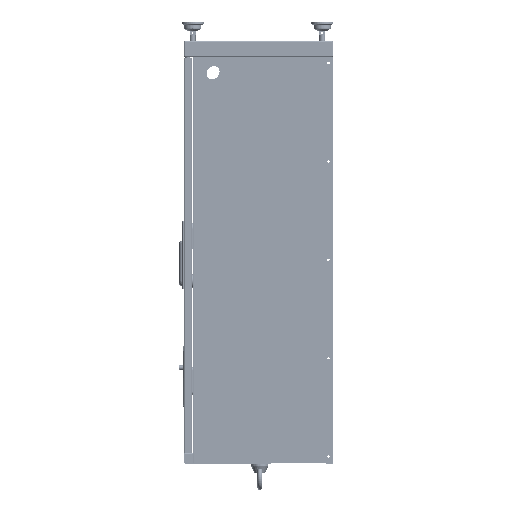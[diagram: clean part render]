
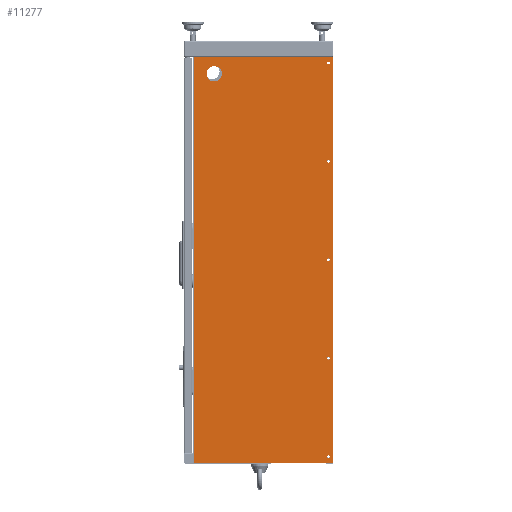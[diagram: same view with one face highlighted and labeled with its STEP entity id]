
A CAD part, left-side view. The second image highlights one B-rep face of the part: STEP entity #11277.
In plain terms, the highlighted planar face has unit normal (-1, 0, 0).
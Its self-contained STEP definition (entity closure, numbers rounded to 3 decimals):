
#10538=DIRECTION('',(0.,0.,-1.));
#10539=VECTOR('',#10538,845.);
#10540=CARTESIAN_POINT('',(-261.5,0.5,388.85));
#10541=LINE('',#10540,#10539);
#10545=DIRECTION('',(0.,1.,0.));
#10546=VECTOR('',#10545,290.);
#10547=CARTESIAN_POINT('',(-261.5,0.5,-456.15));
#10548=LINE('',#10547,#10546);
#10552=DIRECTION('',(0.,-1.,0.));
#10553=VECTOR('',#10552,290.);
#10554=CARTESIAN_POINT('',(-261.5,290.5,388.85));
#10555=LINE('',#10554,#10553);
#10559=CARTESIAN_POINT('',(-261.5,9.5,-443.65));
#10560=DIRECTION('',(-1.,0.,0.));
#10561=DIRECTION('',(0.,-1.,0.));
#10562=AXIS2_PLACEMENT_3D('',#10559,#10560,#10561);
#10567=CARTESIAN_POINT('',(-261.5,9.5,-443.65));
#10568=DIRECTION('',(-1.,0.,0.));
#10569=DIRECTION('',(0.,1.,0.));
#10570=AXIS2_PLACEMENT_3D('',#10567,#10568,#10569);
#10575=CARTESIAN_POINT('',(-261.5,9.5,-238.65));
#10576=DIRECTION('',(-1.,0.,0.));
#10577=DIRECTION('',(0.,-1.,0.));
#10578=AXIS2_PLACEMENT_3D('',#10575,#10576,#10577);
#10583=CARTESIAN_POINT('',(-261.5,9.5,-238.65));
#10584=DIRECTION('',(-1.,0.,0.));
#10585=DIRECTION('',(0.,1.,0.));
#10586=AXIS2_PLACEMENT_3D('',#10583,#10584,#10585);
#10591=CARTESIAN_POINT('',(-261.5,9.5,-33.65));
#10592=DIRECTION('',(-1.,0.,0.));
#10593=DIRECTION('',(0.,-1.,0.));
#10594=AXIS2_PLACEMENT_3D('',#10591,#10592,#10593);
#10599=CARTESIAN_POINT('',(-261.5,9.5,-33.65));
#10600=DIRECTION('',(-1.,0.,0.));
#10601=DIRECTION('',(0.,1.,0.));
#10602=AXIS2_PLACEMENT_3D('',#10599,#10600,#10601);
#10607=CARTESIAN_POINT('',(-261.5,9.5,376.35));
#10608=DIRECTION('',(-1.,0.,0.));
#10609=DIRECTION('',(0.,-1.,0.));
#10610=AXIS2_PLACEMENT_3D('',#10607,#10608,#10609);
#10615=CARTESIAN_POINT('',(-261.5,9.5,376.35));
#10616=DIRECTION('',(-1.,0.,0.));
#10617=DIRECTION('',(0.,1.,0.));
#10618=AXIS2_PLACEMENT_3D('',#10615,#10616,#10617);
#10623=CARTESIAN_POINT('',(-261.5,9.5,171.35));
#10624=DIRECTION('',(-1.,0.,0.));
#10625=DIRECTION('',(0.,-1.,0.));
#10626=AXIS2_PLACEMENT_3D('',#10623,#10624,#10625);
#10631=CARTESIAN_POINT('',(-261.5,9.5,171.35));
#10632=DIRECTION('',(-1.,0.,0.));
#10633=DIRECTION('',(0.,1.,0.));
#10634=AXIS2_PLACEMENT_3D('',#10631,#10632,#10633);
#10639=CARTESIAN_POINT('',(-261.5,247.5,353.85));
#10640=DIRECTION('',(-1.,0.,0.));
#10641=DIRECTION('',(0.,0.,-1.));
#10642=AXIS2_PLACEMENT_3D('',#10639,#10640,#10641);
#10647=CARTESIAN_POINT('',(-261.5,247.5,353.85));
#10648=DIRECTION('',(-1.,0.,0.));
#10649=DIRECTION('',(0.,0.,1.));
#10650=AXIS2_PLACEMENT_3D('',#10647,#10648,#10649);
#10713=DIRECTION('',(0.,0.,-1.));
#10714=VECTOR('',#10713,845.);
#10715=CARTESIAN_POINT('',(-261.5,290.5,388.85));
#10716=LINE('',#10715,#10714);
#11130=CARTESIAN_POINT('',(-261.5,0.5,388.85));
#11131=CARTESIAN_POINT('',(-261.5,0.5,-456.15));
#11132=VERTEX_POINT('',#11130);
#11133=VERTEX_POINT('',#11131);
#11134=CARTESIAN_POINT('',(-261.5,290.5,-456.15));
#11135=VERTEX_POINT('',#11134);
#11136=CARTESIAN_POINT('',(-261.5,290.5,388.85));
#11137=VERTEX_POINT('',#11136);
#11138=CARTESIAN_POINT('',(-261.5,6.5,-443.65));
#11139=CARTESIAN_POINT('',(-261.5,12.5,-443.65));
#11140=VERTEX_POINT('',#11138);
#11141=VERTEX_POINT('',#11139);
#11142=CARTESIAN_POINT('',(-261.5,6.5,-238.65));
#11143=CARTESIAN_POINT('',(-261.5,12.5,-238.65));
#11144=VERTEX_POINT('',#11142);
#11145=VERTEX_POINT('',#11143);
#11146=CARTESIAN_POINT('',(-261.5,6.5,-33.65));
#11147=CARTESIAN_POINT('',(-261.5,12.5,-33.65));
#11148=VERTEX_POINT('',#11146);
#11149=VERTEX_POINT('',#11147);
#11150=CARTESIAN_POINT('',(-261.5,6.5,376.35));
#11151=CARTESIAN_POINT('',(-261.5,12.5,376.35));
#11152=VERTEX_POINT('',#11150);
#11153=VERTEX_POINT('',#11151);
#11154=CARTESIAN_POINT('',(-261.5,6.5,171.35));
#11155=CARTESIAN_POINT('',(-261.5,12.5,171.35));
#11156=VERTEX_POINT('',#11154);
#11157=VERTEX_POINT('',#11155);
#11158=CARTESIAN_POINT('',(-261.5,247.5,337.85));
#11159=CARTESIAN_POINT('',(-261.5,247.5,369.85));
#11160=VERTEX_POINT('',#11158);
#11161=VERTEX_POINT('',#11159);
#11226=CARTESIAN_POINT('',(-261.5,146.5,-33.65));
#11227=DIRECTION('',(-1.,0.,0.));
#11228=DIRECTION('',(0.,1.,0.));
#11229=AXIS2_PLACEMENT_3D('',#11226,#11227,#11228);
#11230=PLANE('',#11229);
#11232=ORIENTED_EDGE('',*,*,#11231,.T.);
#11234=ORIENTED_EDGE('',*,*,#11233,.T.);
#11236=ORIENTED_EDGE('',*,*,#11235,.F.);
#11238=ORIENTED_EDGE('',*,*,#11237,.T.);
#11239=EDGE_LOOP('',(#11232,#11234,#11236,#11238));
#11240=FACE_OUTER_BOUND('',#11239,.F.);
#11242=ORIENTED_EDGE('',*,*,#11241,.T.);
#11244=ORIENTED_EDGE('',*,*,#11243,.T.);
#11245=EDGE_LOOP('',(#11242,#11244));
#11246=FACE_BOUND('',#11245,.F.);
#11248=ORIENTED_EDGE('',*,*,#11247,.T.);
#11250=ORIENTED_EDGE('',*,*,#11249,.T.);
#11251=EDGE_LOOP('',(#11248,#11250));
#11252=FACE_BOUND('',#11251,.F.);
#11254=ORIENTED_EDGE('',*,*,#11253,.T.);
#11256=ORIENTED_EDGE('',*,*,#11255,.T.);
#11257=EDGE_LOOP('',(#11254,#11256));
#11258=FACE_BOUND('',#11257,.F.);
#11260=ORIENTED_EDGE('',*,*,#11259,.T.);
#11262=ORIENTED_EDGE('',*,*,#11261,.T.);
#11263=EDGE_LOOP('',(#11260,#11262));
#11264=FACE_BOUND('',#11263,.F.);
#11266=ORIENTED_EDGE('',*,*,#11265,.T.);
#11268=ORIENTED_EDGE('',*,*,#11267,.T.);
#11269=EDGE_LOOP('',(#11266,#11268));
#11270=FACE_BOUND('',#11269,.F.);
#11272=ORIENTED_EDGE('',*,*,#11271,.T.);
#11274=ORIENTED_EDGE('',*,*,#11273,.T.);
#11275=EDGE_LOOP('',(#11272,#11274));
#11276=FACE_BOUND('',#11275,.F.);
#10563=CIRCLE('',#10562,3.);
#10571=CIRCLE('',#10570,3.);
#10579=CIRCLE('',#10578,3.);
#10587=CIRCLE('',#10586,3.);
#10595=CIRCLE('',#10594,3.);
#10603=CIRCLE('',#10602,3.);
#10611=CIRCLE('',#10610,3.);
#10619=CIRCLE('',#10618,3.);
#10627=CIRCLE('',#10626,3.);
#10635=CIRCLE('',#10634,3.);
#10643=CIRCLE('',#10642,16.);
#10651=CIRCLE('',#10650,16.);
#11231=EDGE_CURVE('',#11132,#11133,#10541,.T.);
#11233=EDGE_CURVE('',#11133,#11135,#10548,.T.);
#11235=EDGE_CURVE('',#11137,#11135,#10716,.T.);
#11237=EDGE_CURVE('',#11137,#11132,#10555,.T.);
#11241=EDGE_CURVE('',#11140,#11141,#10563,.T.);
#11243=EDGE_CURVE('',#11141,#11140,#10571,.T.);
#11247=EDGE_CURVE('',#11144,#11145,#10579,.T.);
#11249=EDGE_CURVE('',#11145,#11144,#10587,.T.);
#11253=EDGE_CURVE('',#11148,#11149,#10595,.T.);
#11255=EDGE_CURVE('',#11149,#11148,#10603,.T.);
#11259=EDGE_CURVE('',#11152,#11153,#10611,.T.);
#11261=EDGE_CURVE('',#11153,#11152,#10619,.T.);
#11265=EDGE_CURVE('',#11156,#11157,#10627,.T.);
#11267=EDGE_CURVE('',#11157,#11156,#10635,.T.);
#11271=EDGE_CURVE('',#11160,#11161,#10643,.T.);
#11273=EDGE_CURVE('',#11161,#11160,#10651,.T.);
#11277=ADVANCED_FACE('',(#11240,#11246,#11252,#11258,#11264,#11270,#11276),
#11230,.T.);
